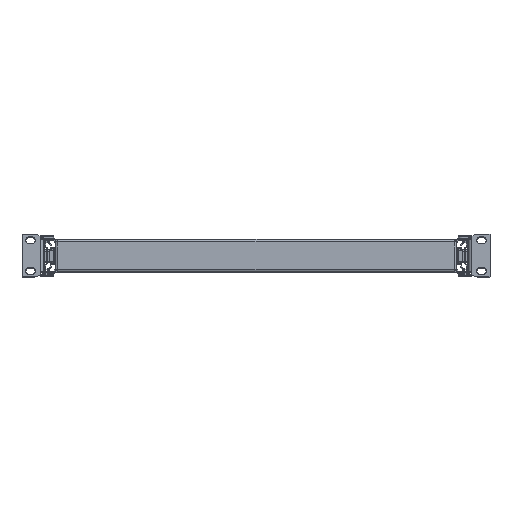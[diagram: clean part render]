
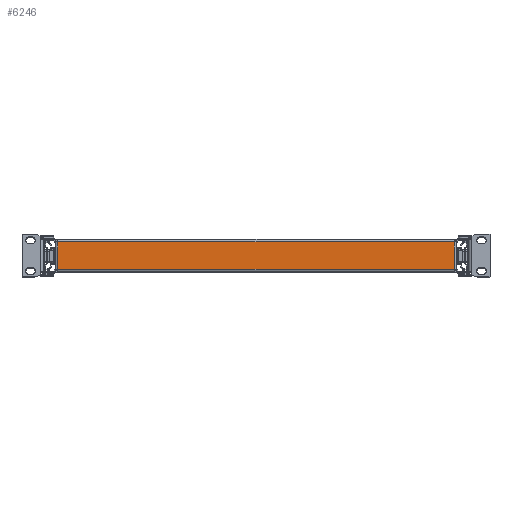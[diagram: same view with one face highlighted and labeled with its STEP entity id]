
A CAD part, top view. The second image highlights one B-rep face of the part: STEP entity #6246.
In plain terms, the highlighted planar face has unit normal (0, 0, 1).
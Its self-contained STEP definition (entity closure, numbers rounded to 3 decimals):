
#3220 = CARTESIAN_POINT ( 'NONE',  ( 204.3, -1.5, 225. ) ) ;
#4323 = CARTESIAN_POINT ( 'NONE',  ( 204.3, -32.6, 225. ) ) ;
#5712 = EDGE_CURVE ( 'NONE', #5852, #34582, #16627, .T. ) ;
#5852 = VERTEX_POINT ( 'NONE', #48561 ) ;
#6246 = ADVANCED_FACE ( 'NONE', ( #53147 ), #17168, .T. ) ;
#6650 = EDGE_CURVE ( 'NONE', #34582, #31092, #31442, .T. ) ;
#6844 = VERTEX_POINT ( 'NONE', #25285 ) ;
#10434 = ORIENTED_EDGE ( 'NONE', *, *, #39221, .T. ) ;
#10497 = EDGE_CURVE ( 'NONE', #6844, #5852, #30446, .T. ) ;
#11016 = CARTESIAN_POINT ( 'NONE',  ( 204.3, -29.7, 225. ) ) ;
#16627 = LINE ( 'NONE', #43077, #54412 ) ;
#16769 = CARTESIAN_POINT ( 'NONE',  ( -204.3, -1.5, 225. ) ) ;
#17168 = PLANE ( 'NONE',  #48914 ) ;
#22118 = DIRECTION ( 'NONE',  ( 1., 0., 0. ) ) ;
#22631 = VECTOR ( 'NONE', #42501, 1000. ) ;
#25285 = CARTESIAN_POINT ( 'NONE',  ( -204.3, -1.5, 225. ) ) ;
#29077 = VECTOR ( 'NONE', #51848, 1000. ) ;
#30446 = LINE ( 'NONE', #16769, #29077 ) ;
#31092 = VERTEX_POINT ( 'NONE', #3220 ) ;
#31442 = LINE ( 'NONE', #4323, #22631 ) ;
#33286 = VECTOR ( 'NONE', #46792, 1000. ) ;
#33357 = ORIENTED_EDGE ( 'NONE', *, *, #6650, .T. ) ;
#34582 = VERTEX_POINT ( 'NONE', #11016 ) ;
#36665 = LINE ( 'NONE', #51505, #33286 ) ;
#37895 = DIRECTION ( 'NONE',  ( 0., -1., 0. ) ) ;
#39221 = EDGE_CURVE ( 'NONE', #31092, #6844, #36665, .T. ) ;
#39767 = ORIENTED_EDGE ( 'NONE', *, *, #5712, .T. ) ;
#40946 = ORIENTED_EDGE ( 'NONE', *, *, #10497, .T. ) ;
#42501 = DIRECTION ( 'NONE',  ( 0., 1., 0. ) ) ;
#43077 = CARTESIAN_POINT ( 'NONE',  ( -204.3, -29.7, 225. ) ) ;
#46792 = DIRECTION ( 'NONE',  ( -1., 0., 0. ) ) ;
#46885 = EDGE_LOOP ( 'NONE', ( #40946, #39767, #33357, #10434 ) ) ;
#46986 = CARTESIAN_POINT ( 'NONE',  ( -207.2, 0., 225. ) ) ;
#47366 = DIRECTION ( 'NONE',  ( 0., 0., 1. ) ) ;
#48561 = CARTESIAN_POINT ( 'NONE',  ( -204.3, -29.7, 225. ) ) ;
#48914 = AXIS2_PLACEMENT_3D ( 'NONE', #46986, #47366, #37895 ) ;
#51505 = CARTESIAN_POINT ( 'NONE',  ( -207.2, -1.5, 225. ) ) ;
#51848 = DIRECTION ( 'NONE',  ( 0., -1., 0. ) ) ;
#53147 = FACE_OUTER_BOUND ( 'NONE', #46885, .T. ) ;
#54412 = VECTOR ( 'NONE', #22118, 1000. ) ;
